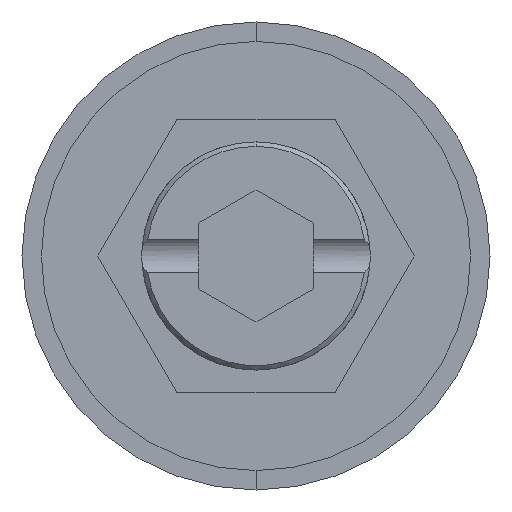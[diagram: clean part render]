
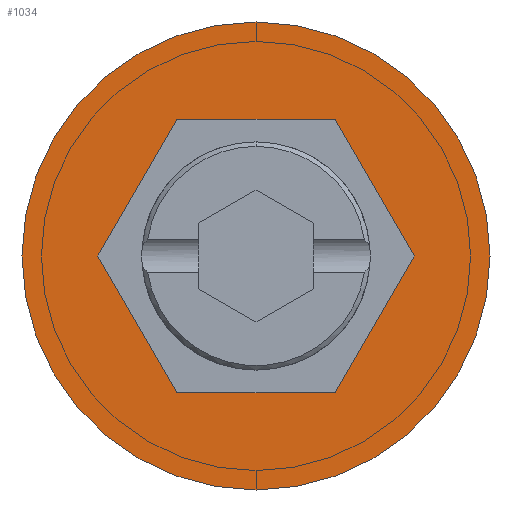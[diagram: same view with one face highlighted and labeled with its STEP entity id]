
A CAD part, front view. The second image highlights one B-rep face of the part: STEP entity #1034.
In plain terms, the highlighted planar face has unit normal (0, -1, 0).
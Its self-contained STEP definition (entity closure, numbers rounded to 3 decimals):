
#27 = LINE ( 'NONE', #1083, #917 ) ;
#110 = CARTESIAN_POINT ( 'NONE',  ( 3.464, 0., 6. ) ) ;
#120 = CARTESIAN_POINT ( 'NONE',  ( -3.464, 0., -6. ) ) ;
#137 = DIRECTION ( 'NONE',  ( 1., 0., 0. ) ) ;
#138 = VECTOR ( 'NONE', #137, 1000. ) ;
#172 = VERTEX_POINT ( 'NONE', #1269 ) ;
#202 = VERTEX_POINT ( 'NONE', #1510 ) ;
#206 = VERTEX_POINT ( 'NONE', #1612 ) ;
#215 = LINE ( 'NONE', #120, #138 ) ;
#287 = DIRECTION ( 'NONE',  ( -0.5, 0., -0.866 ) ) ;
#308 = LINE ( 'NONE', #425, #2222 ) ;
#382 = ORIENTED_EDGE ( 'NONE', *, *, #1639, .T. ) ;
#408 = VECTOR ( 'NONE', #2044, 1000. ) ;
#425 = CARTESIAN_POINT ( 'NONE',  ( -3.464, 0., 6. ) ) ;
#471 = EDGE_CURVE ( 'NONE', #891, #2032, #2064, .T. ) ;
#484 = DIRECTION ( 'NONE',  ( 0.5, 0., 0.866 ) ) ;
#501 = CARTESIAN_POINT ( 'NONE',  ( 3.464, 0., -6. ) ) ;
#592 = FACE_OUTER_BOUND ( 'NONE', #1824, .T. ) ;
#682 = FACE_BOUND ( 'NONE', #2169, .T. ) ;
#765 = ORIENTED_EDGE ( 'NONE', *, *, #2151, .F. ) ;
#834 = LINE ( 'NONE', #2230, #408 ) ;
#845 = EDGE_CURVE ( 'NONE', #206, #1674, #834, .T. ) ;
#858 = EDGE_CURVE ( 'NONE', #2047, #1820, #27, .T. ) ;
#891 = VERTEX_POINT ( 'NONE', #1595 ) ;
#917 = VECTOR ( 'NONE', #1698, 1000. ) ;
#922 = ORIENTED_EDGE ( 'NONE', *, *, #1935, .F. ) ;
#1034 = ADVANCED_FACE ( 'NONE', ( #682, #592 ), #1869, .T. ) ;
#1083 = CARTESIAN_POINT ( 'NONE',  ( -6.928, 0., 0. ) ) ;
#1202 = CARTESIAN_POINT ( 'NONE',  ( 0., 0., 0. ) ) ;
#1226 = ORIENTED_EDGE ( 'NONE', *, *, #1653, .F. ) ;
#1267 = CARTESIAN_POINT ( 'NONE',  ( 0., 0., 0. ) ) ;
#1269 = CARTESIAN_POINT ( 'NONE',  ( -3.464, 0., 6. ) ) ;
#1275 = DIRECTION ( 'NONE',  ( 0., -1., 0. ) ) ;
#1282 = DIRECTION ( 'NONE',  ( 0., 0., -1. ) ) ;
#1301 = CARTESIAN_POINT ( 'NONE',  ( -3.464, 0., -6. ) ) ;
#1322 = ORIENTED_EDGE ( 'NONE', *, *, #858, .F. ) ;
#1447 = VECTOR ( 'NONE', #484, 1000. ) ;
#1457 = DIRECTION ( 'NONE',  ( 0., -1., 0. ) ) ;
#1503 = ORIENTED_EDGE ( 'NONE', *, *, #845, .F. ) ;
#1506 = VECTOR ( 'NONE', #2157, 1000. ) ;
#1510 = CARTESIAN_POINT ( 'NONE',  ( 3.464, 0., -6. ) ) ;
#1595 = CARTESIAN_POINT ( 'NONE',  ( 0., 0., 10.25 ) ) ;
#1612 = CARTESIAN_POINT ( 'NONE',  ( 6.928, 0., 0. ) ) ;
#1635 = CIRCLE ( 'NONE', #2028, 10.25 ) ;
#1639 = EDGE_CURVE ( 'NONE', #2032, #891, #1635, .T. ) ;
#1649 = CARTESIAN_POINT ( 'NONE',  ( 0., 0., 0. ) ) ;
#1653 = EDGE_CURVE ( 'NONE', #1674, #172, #1793, .T. ) ;
#1661 = CARTESIAN_POINT ( 'NONE',  ( 0., 0., -10.25 ) ) ;
#1674 = VERTEX_POINT ( 'NONE', #110 ) ;
#1698 = DIRECTION ( 'NONE',  ( 0.5, 0., -0.866 ) ) ;
#1761 = DIRECTION ( 'NONE',  ( 0., 0., -1. ) ) ;
#1792 = AXIS2_PLACEMENT_3D ( 'NONE', #1267, #1275, #1282 ) ;
#1793 = LINE ( 'NONE', #1803, #1506 ) ;
#1803 = CARTESIAN_POINT ( 'NONE',  ( 3.464, 0., 6. ) ) ;
#1815 = ORIENTED_EDGE ( 'NONE', *, *, #471, .T. ) ;
#1820 = VERTEX_POINT ( 'NONE', #1301 ) ;
#1824 = EDGE_LOOP ( 'NONE', ( #382, #1815 ) ) ;
#1869 = PLANE ( 'NONE',  #2231 ) ;
#1877 = DIRECTION ( 'NONE',  ( 0., -1., 0. ) ) ;
#1884 = ORIENTED_EDGE ( 'NONE', *, *, #1903, .F. ) ;
#1890 = DIRECTION ( 'NONE',  ( 0., 0., -1. ) ) ;
#1903 = EDGE_CURVE ( 'NONE', #1820, #202, #215, .T. ) ;
#1935 = EDGE_CURVE ( 'NONE', #172, #2047, #308, .T. ) ;
#1979 = CARTESIAN_POINT ( 'NONE',  ( -6.928, 0., 0. ) ) ;
#2028 = AXIS2_PLACEMENT_3D ( 'NONE', #1649, #1457, #1761 ) ;
#2032 = VERTEX_POINT ( 'NONE', #1661 ) ;
#2044 = DIRECTION ( 'NONE',  ( -0.5, 0., 0.866 ) ) ;
#2047 = VERTEX_POINT ( 'NONE', #1979 ) ;
#2053 = LINE ( 'NONE', #501, #1447 ) ;
#2064 = CIRCLE ( 'NONE', #1792, 10.25 ) ;
#2151 = EDGE_CURVE ( 'NONE', #202, #206, #2053, .T. ) ;
#2157 = DIRECTION ( 'NONE',  ( -1., 0., 0. ) ) ;
#2169 = EDGE_LOOP ( 'NONE', ( #1884, #1322, #922, #1226, #1503, #765 ) ) ;
#2222 = VECTOR ( 'NONE', #287, 1000. ) ;
#2230 = CARTESIAN_POINT ( 'NONE',  ( 6.928, 0., 0. ) ) ;
#2231 = AXIS2_PLACEMENT_3D ( 'NONE', #1202, #1877, #1890 ) ;
